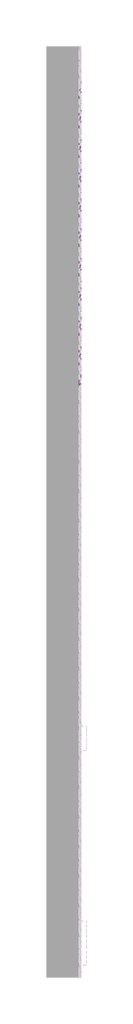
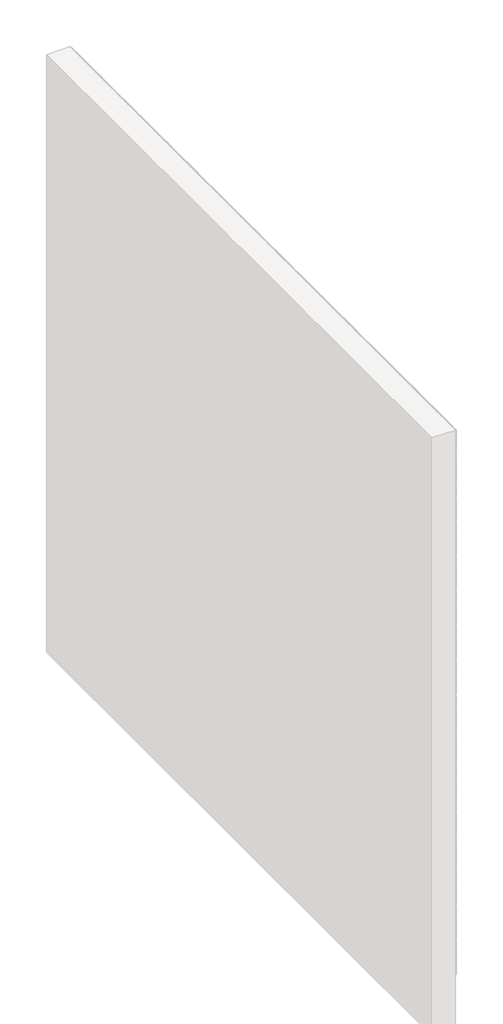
# One storey, part 120 of 121: 144 proxies.
"""IFC4 building model written with IfcOpenShell, lengths in millimetres."""

from ifc_helpers import new_model, si_unit, origin, place, context, project, spatial, transform, mapped, element, save
from components import generic_models_b2b2c5c1, generic_models_9bf73f6f, generic_models_5d175859, generic_models_0bb79e7c

model = new_model("IFC4")

# Units and contexts
model_context = context("Model", 3, world=origin())
ifc_project = project(units=[si_unit("LENGTHUNIT", "METRE", prefix="MILLI")], contexts=[model_context])

# Site, building, storey
site = spatial("IfcSite", under=ifc_project)
building = spatial("IfcBuilding", under=site)
storey = spatial("IfcBuildingStorey", under=building, Name="PORTOBELLO - SHOWROOM", Elevation=0.0)

# Proxies
placement = place(None, origin())
generic_models_shape = generic_models_b2b2c5c1(model_context)
element("IfcBuildingElementProxy", 1, Name="PBSHOP - CUBICA WHITE 4,8X8,3 : CUBICA WHITE - POSIÇÃO 01", ObjectType="PBSHOP - CUBICA WHITE 4,8X8,3 : CUBICA WHITE - POSIÇÃO 01", at=placement, inside=storey, context=model_context, shape_type="MappedRepresentation", body=[
    mapped(generic_models_shape, transform((150369.5341846, 21967.1454575, 2328.5266797), x_axis=(0.0, 1.0, 0.0), y_axis=(0.0, 0.0, 1.0), z_axis=(1.0, 0.0, 0.0))),
])
element("IfcBuildingElementProxy", 2, Name="PBSHOP - CUBICA WHITE 4,8X8,3 : CUBICA WHITE - POSIÇÃO 01", ObjectType="PBSHOP - CUBICA WHITE 4,8X8,3 : CUBICA WHITE - POSIÇÃO 01", at=placement, inside=storey, context=model_context, shape_type="MappedRepresentation", body=[
    mapped(generic_models_shape, transform((150369.5341846, 21013.3331304, 2407.461318), x_axis=(0.0, 1.0, 0.0), y_axis=(0.0, 0.0, 1.0), z_axis=(1.0, 0.0, 0.0))),
])
element("IfcBuildingElementProxy", 3, Name="PBSHOP - CUBICA WHITE 4,8X8,3 : CUBICA WHITE - POSIÇÃO 01", ObjectType="PBSHOP - CUBICA WHITE 4,8X8,3 : CUBICA WHITE - POSIÇÃO 01", at=placement, inside=storey, context=model_context, shape_type="MappedRepresentation", body=[
    mapped(generic_models_shape, transform((150369.5341846, 21104.1723997, 2407.461318), x_axis=(0.0, 1.0, 0.0), y_axis=(0.0, 0.0, 1.0), z_axis=(1.0, 0.0, 0.0))),
])
element("IfcBuildingElementProxy", 4, Name="PBSHOP - CUBICA WHITE 4,8X8,3 : CUBICA WHITE - POSIÇÃO 01", ObjectType="PBSHOP - CUBICA WHITE 4,8X8,3 : CUBICA WHITE - POSIÇÃO 01", at=placement, inside=storey, context=model_context, shape_type="MappedRepresentation", body=[
    mapped(generic_models_shape, transform((150369.5341846, 21195.0116689, 2407.461318), x_axis=(0.0, 1.0, 0.0), y_axis=(0.0, 0.0, 1.0), z_axis=(1.0, 0.0, 0.0))),
])
element("IfcBuildingElementProxy", 5, Name="PBSHOP - CUBICA WHITE 4,8X8,3 : CUBICA WHITE - POSIÇÃO 01", ObjectType="PBSHOP - CUBICA WHITE 4,8X8,3 : CUBICA WHITE - POSIÇÃO 01", at=placement, inside=storey, context=model_context, shape_type="MappedRepresentation", body=[
    mapped(generic_models_shape, transform((150369.5341846, 21285.8509382, 2407.461318), x_axis=(0.0, 1.0, 0.0), y_axis=(0.0, 0.0, 1.0), z_axis=(1.0, 0.0, 0.0))),
])
element("IfcBuildingElementProxy", 6, Name="PBSHOP - CUBICA WHITE 4,8X8,3 : CUBICA WHITE - POSIÇÃO 01", ObjectType="PBSHOP - CUBICA WHITE 4,8X8,3 : CUBICA WHITE - POSIÇÃO 01", at=placement, inside=storey, context=model_context, shape_type="MappedRepresentation", body=[
    mapped(generic_models_shape, transform((150369.5341846, 21376.6902074, 2407.461318), x_axis=(0.0, 1.0, 0.0), y_axis=(0.0, 0.0, 1.0), z_axis=(1.0, 0.0, 0.0))),
])
element("IfcBuildingElementProxy", 7, Name="PBSHOP - CUBICA WHITE 4,8X8,3 : CUBICA WHITE - POSIÇÃO 01", ObjectType="PBSHOP - CUBICA WHITE 4,8X8,3 : CUBICA WHITE - POSIÇÃO 01", at=placement, inside=storey, context=model_context, shape_type="MappedRepresentation", body=[
    mapped(generic_models_shape, transform((150369.5341846, 21467.5294767, 2407.461318), x_axis=(0.0, 1.0, 0.0), y_axis=(0.0, 0.0, 1.0), z_axis=(1.0, 0.0, 0.0))),
])
element("IfcBuildingElementProxy", 8, Name="PBSHOP - CUBICA WHITE 4,8X8,3 : CUBICA WHITE - POSIÇÃO 01", ObjectType="PBSHOP - CUBICA WHITE 4,8X8,3 : CUBICA WHITE - POSIÇÃO 01", at=placement, inside=storey, context=model_context, shape_type="MappedRepresentation", body=[
    mapped(generic_models_shape, transform((150369.5341846, 21558.3687459, 2407.461318), x_axis=(0.0, 1.0, 0.0), y_axis=(0.0, 0.0, 1.0), z_axis=(1.0, 0.0, 0.0))),
])
element("IfcBuildingElementProxy", 9, Name="PBSHOP - CUBICA WHITE 4,8X8,3 : CUBICA WHITE - POSIÇÃO 01", ObjectType="PBSHOP - CUBICA WHITE 4,8X8,3 : CUBICA WHITE - POSIÇÃO 01", at=placement, inside=storey, context=model_context, shape_type="MappedRepresentation", body=[
    mapped(generic_models_shape, transform((150369.5341846, 21649.2080152, 2407.461318), x_axis=(0.0, 1.0, 0.0), y_axis=(0.0, 0.0, 1.0), z_axis=(1.0, 0.0, 0.0))),
])
element("IfcBuildingElementProxy", 10, Name="PBSHOP - CUBICA WHITE 4,8X8,3 : CUBICA WHITE - POSIÇÃO 01", ObjectType="PBSHOP - CUBICA WHITE 4,8X8,3 : CUBICA WHITE - POSIÇÃO 01", at=placement, inside=storey, context=model_context, shape_type="MappedRepresentation", body=[
    mapped(generic_models_shape, transform((150369.5341846, 21740.0472844, 2407.461318), x_axis=(0.0, 1.0, 0.0), y_axis=(0.0, 0.0, 1.0), z_axis=(1.0, 0.0, 0.0))),
])
element("IfcBuildingElementProxy", 11, Name="PBSHOP - CUBICA WHITE 4,8X8,3 : CUBICA WHITE - POSIÇÃO 01", ObjectType="PBSHOP - CUBICA WHITE 4,8X8,3 : CUBICA WHITE - POSIÇÃO 01", at=placement, inside=storey, context=model_context, shape_type="MappedRepresentation", body=[
    mapped(generic_models_shape, transform((150369.5341846, 21830.8865536, 2407.461318), x_axis=(0.0, 1.0, 0.0), y_axis=(0.0, 0.0, 1.0), z_axis=(1.0, 0.0, 0.0))),
])
element("IfcBuildingElementProxy", 12, Name="PBSHOP - CUBICA WHITE 4,8X8,3 : CUBICA WHITE - POSIÇÃO 01", ObjectType="PBSHOP - CUBICA WHITE 4,8X8,3 : CUBICA WHITE - POSIÇÃO 01", at=placement, inside=storey, context=model_context, shape_type="MappedRepresentation", body=[
    mapped(generic_models_shape, transform((150369.5341846, 21921.7258229, 2407.461318), x_axis=(0.0, 1.0, 0.0), y_axis=(0.0, 0.0, 1.0), z_axis=(1.0, 0.0, 0.0))),
])
element("IfcBuildingElementProxy", 13, Name="PBSHOP - CUBICA WHITE 4,8X8,3 : CUBICA WHITE - POSIÇÃO 01", ObjectType="PBSHOP - CUBICA WHITE 4,8X8,3 : CUBICA WHITE - POSIÇÃO 01", at=placement, inside=storey, context=model_context, shape_type="MappedRepresentation", body=[
    mapped(generic_models_shape, transform((150369.5341846, 21058.7527651, 2486.3959564), x_axis=(0.0, 1.0, 0.0), y_axis=(0.0, 0.0, 1.0), z_axis=(1.0, 0.0, 0.0))),
])
element("IfcBuildingElementProxy", 14, Name="PBSHOP - CUBICA WHITE 4,8X8,3 : CUBICA WHITE - POSIÇÃO 01", ObjectType="PBSHOP - CUBICA WHITE 4,8X8,3 : CUBICA WHITE - POSIÇÃO 01", at=placement, inside=storey, context=model_context, shape_type="MappedRepresentation", body=[
    mapped(generic_models_shape, transform((150369.5341846, 21149.5920343, 2486.3959564), x_axis=(0.0, 1.0, 0.0), y_axis=(0.0, 0.0, 1.0), z_axis=(1.0, 0.0, 0.0))),
])
element("IfcBuildingElementProxy", 15, Name="PBSHOP - CUBICA WHITE 4,8X8,3 : CUBICA WHITE - POSIÇÃO 01", ObjectType="PBSHOP - CUBICA WHITE 4,8X8,3 : CUBICA WHITE - POSIÇÃO 01", at=placement, inside=storey, context=model_context, shape_type="MappedRepresentation", body=[
    mapped(generic_models_shape, transform((150369.5341846, 21240.4313036, 2486.3959564), x_axis=(0.0, 1.0, 0.0), y_axis=(0.0, 0.0, 1.0), z_axis=(1.0, 0.0, 0.0))),
])
element("IfcBuildingElementProxy", 16, Name="PBSHOP - CUBICA WHITE 4,8X8,3 : CUBICA WHITE - POSIÇÃO 01", ObjectType="PBSHOP - CUBICA WHITE 4,8X8,3 : CUBICA WHITE - POSIÇÃO 01", at=placement, inside=storey, context=model_context, shape_type="MappedRepresentation", body=[
    mapped(generic_models_shape, transform((150369.5341846, 21331.2705728, 2486.3959564), x_axis=(0.0, 1.0, 0.0), y_axis=(0.0, 0.0, 1.0), z_axis=(1.0, 0.0, 0.0))),
])
element("IfcBuildingElementProxy", 17, Name="PBSHOP - CUBICA WHITE 4,8X8,3 : CUBICA WHITE - POSIÇÃO 01", ObjectType="PBSHOP - CUBICA WHITE 4,8X8,3 : CUBICA WHITE - POSIÇÃO 01", at=placement, inside=storey, context=model_context, shape_type="MappedRepresentation", body=[
    mapped(generic_models_shape, transform((150369.5341846, 21422.109842, 2486.3959564), x_axis=(0.0, 1.0, 0.0), y_axis=(0.0, 0.0, 1.0), z_axis=(1.0, 0.0, 0.0))),
])
element("IfcBuildingElementProxy", 18, Name="PBSHOP - CUBICA WHITE 4,8X8,3 : CUBICA WHITE - POSIÇÃO 01", ObjectType="PBSHOP - CUBICA WHITE 4,8X8,3 : CUBICA WHITE - POSIÇÃO 01", at=placement, inside=storey, context=model_context, shape_type="MappedRepresentation", body=[
    mapped(generic_models_shape, transform((150369.5341846, 21512.9491113, 2486.3959564), x_axis=(0.0, 1.0, 0.0), y_axis=(0.0, 0.0, 1.0), z_axis=(1.0, 0.0, 0.0))),
])
element("IfcBuildingElementProxy", 19, Name="PBSHOP - CUBICA WHITE 4,8X8,3 : CUBICA WHITE - POSIÇÃO 01", ObjectType="PBSHOP - CUBICA WHITE 4,8X8,3 : CUBICA WHITE - POSIÇÃO 01", at=placement, inside=storey, context=model_context, shape_type="MappedRepresentation", body=[
    mapped(generic_models_shape, transform((150369.5341846, 21603.7883805, 2486.3959564), x_axis=(0.0, 1.0, 0.0), y_axis=(0.0, 0.0, 1.0), z_axis=(1.0, 0.0, 0.0))),
])
element("IfcBuildingElementProxy", 20, Name="PBSHOP - CUBICA WHITE 4,8X8,3 : CUBICA WHITE - POSIÇÃO 01", ObjectType="PBSHOP - CUBICA WHITE 4,8X8,3 : CUBICA WHITE - POSIÇÃO 01", at=placement, inside=storey, context=model_context, shape_type="MappedRepresentation", body=[
    mapped(generic_models_shape, transform((150369.5341846, 21694.6276498, 2486.3959564), x_axis=(0.0, 1.0, 0.0), y_axis=(0.0, 0.0, 1.0), z_axis=(1.0, 0.0, 0.0))),
])
element("IfcBuildingElementProxy", 21, Name="PBSHOP - CUBICA WHITE 4,8X8,3 : CUBICA WHITE - POSIÇÃO 01", ObjectType="PBSHOP - CUBICA WHITE 4,8X8,3 : CUBICA WHITE - POSIÇÃO 01", at=placement, inside=storey, context=model_context, shape_type="MappedRepresentation", body=[
    mapped(generic_models_shape, transform((150369.5341846, 21785.466919, 2486.3959564), x_axis=(0.0, 1.0, 0.0), y_axis=(0.0, 0.0, 1.0), z_axis=(1.0, 0.0, 0.0))),
])
element("IfcBuildingElementProxy", 22, Name="PBSHOP - CUBICA WHITE 4,8X8,3 : CUBICA WHITE - POSIÇÃO 01", ObjectType="PBSHOP - CUBICA WHITE 4,8X8,3 : CUBICA WHITE - POSIÇÃO 01", at=placement, inside=storey, context=model_context, shape_type="MappedRepresentation", body=[
    mapped(generic_models_shape, transform((150369.5341846, 21876.3061883, 2486.3959564), x_axis=(0.0, 1.0, 0.0), y_axis=(0.0, 0.0, 1.0), z_axis=(1.0, 0.0, 0.0))),
])
element("IfcBuildingElementProxy", 23, Name="PBSHOP - CUBICA WHITE 4,8X8,3 : CUBICA WHITE - POSIÇÃO 01", ObjectType="PBSHOP - CUBICA WHITE 4,8X8,3 : CUBICA WHITE - POSIÇÃO 01", at=placement, inside=storey, context=model_context, shape_type="MappedRepresentation", body=[
    mapped(generic_models_shape, transform((150369.5341846, 21967.1454575, 2486.3959564), x_axis=(0.0, 1.0, 0.0), y_axis=(0.0, 0.0, 1.0), z_axis=(1.0, 0.0, 0.0))),
])
element("IfcBuildingElementProxy", 24, Name="PBSHOP - CUBICA WHITE 4,8X8,3 : CUBICA WHITE - POSIÇÃO 01", ObjectType="PBSHOP - CUBICA WHITE 4,8X8,3 : CUBICA WHITE - POSIÇÃO 01", at=placement, inside=storey, context=model_context, shape_type="MappedRepresentation", body=[
    mapped(generic_models_shape, transform((150369.5341846, 21013.3331304, 2565.3305948), x_axis=(0.0, 1.0, 0.0), y_axis=(0.0, 0.0, 1.0), z_axis=(1.0, 0.0, 0.0))),
])
element("IfcBuildingElementProxy", 25, Name="PBSHOP - CUBICA WHITE 4,8X8,3 : CUBICA WHITE - POSIÇÃO 01", ObjectType="PBSHOP - CUBICA WHITE 4,8X8,3 : CUBICA WHITE - POSIÇÃO 01", at=placement, inside=storey, context=model_context, shape_type="MappedRepresentation", body=[
    mapped(generic_models_shape, transform((150369.5341846, 21104.1723997, 2565.3305948), x_axis=(0.0, 1.0, 0.0), y_axis=(0.0, 0.0, 1.0), z_axis=(1.0, 0.0, 0.0))),
])
element("IfcBuildingElementProxy", 26, Name="PBSHOP - CUBICA WHITE 4,8X8,3 : CUBICA WHITE - POSIÇÃO 01", ObjectType="PBSHOP - CUBICA WHITE 4,8X8,3 : CUBICA WHITE - POSIÇÃO 01", at=placement, inside=storey, context=model_context, shape_type="MappedRepresentation", body=[
    mapped(generic_models_shape, transform((150369.5341846, 21195.0116689, 2565.3305948), x_axis=(0.0, 1.0, 0.0), y_axis=(0.0, 0.0, 1.0), z_axis=(1.0, 0.0, 0.0))),
])
element("IfcBuildingElementProxy", 27, Name="PBSHOP - CUBICA WHITE 4,8X8,3 : CUBICA WHITE - POSIÇÃO 01", ObjectType="PBSHOP - CUBICA WHITE 4,8X8,3 : CUBICA WHITE - POSIÇÃO 01", at=placement, inside=storey, context=model_context, shape_type="MappedRepresentation", body=[
    mapped(generic_models_shape, transform((150369.5341846, 21285.8509382, 2565.3305948), x_axis=(0.0, 1.0, 0.0), y_axis=(0.0, 0.0, 1.0), z_axis=(1.0, 0.0, 0.0))),
])
element("IfcBuildingElementProxy", 28, Name="PBSHOP - CUBICA WHITE 4,8X8,3 : CUBICA WHITE - POSIÇÃO 01", ObjectType="PBSHOP - CUBICA WHITE 4,8X8,3 : CUBICA WHITE - POSIÇÃO 01", at=placement, inside=storey, context=model_context, shape_type="MappedRepresentation", body=[
    mapped(generic_models_shape, transform((150369.5341846, 21376.6902074, 2565.3305948), x_axis=(0.0, 1.0, 0.0), y_axis=(0.0, 0.0, 1.0), z_axis=(1.0, 0.0, 0.0))),
])
element("IfcBuildingElementProxy", 29, Name="PBSHOP - CUBICA WHITE 4,8X8,3 : CUBICA WHITE - POSIÇÃO 01", ObjectType="PBSHOP - CUBICA WHITE 4,8X8,3 : CUBICA WHITE - POSIÇÃO 01", at=placement, inside=storey, context=model_context, shape_type="MappedRepresentation", body=[
    mapped(generic_models_shape, transform((150369.5341846, 21467.5294767, 2565.3305948), x_axis=(0.0, 1.0, 0.0), y_axis=(0.0, 0.0, 1.0), z_axis=(1.0, 0.0, 0.0))),
])
element("IfcBuildingElementProxy", 30, Name="PBSHOP - CUBICA WHITE 4,8X8,3 : CUBICA WHITE - POSIÇÃO 01", ObjectType="PBSHOP - CUBICA WHITE 4,8X8,3 : CUBICA WHITE - POSIÇÃO 01", at=placement, inside=storey, context=model_context, shape_type="MappedRepresentation", body=[
    mapped(generic_models_shape, transform((150369.5341846, 21558.3687459, 2565.3305948), x_axis=(0.0, 1.0, 0.0), y_axis=(0.0, 0.0, 1.0), z_axis=(1.0, 0.0, 0.0))),
])
element("IfcBuildingElementProxy", 31, Name="PBSHOP - CUBICA WHITE 4,8X8,3 : CUBICA WHITE - POSIÇÃO 01", ObjectType="PBSHOP - CUBICA WHITE 4,8X8,3 : CUBICA WHITE - POSIÇÃO 01", at=placement, inside=storey, context=model_context, shape_type="MappedRepresentation", body=[
    mapped(generic_models_shape, transform((150369.5341846, 21649.2080152, 2565.3305948), x_axis=(0.0, 1.0, 0.0), y_axis=(0.0, 0.0, 1.0), z_axis=(1.0, 0.0, 0.0))),
])
element("IfcBuildingElementProxy", 32, Name="PBSHOP - CUBICA WHITE 4,8X8,3 : CUBICA WHITE - POSIÇÃO 01", ObjectType="PBSHOP - CUBICA WHITE 4,8X8,3 : CUBICA WHITE - POSIÇÃO 01", at=placement, inside=storey, context=model_context, shape_type="MappedRepresentation", body=[
    mapped(generic_models_shape, transform((150369.5341846, 21740.0472844, 2565.3305948), x_axis=(0.0, 1.0, 0.0), y_axis=(0.0, 0.0, 1.0), z_axis=(1.0, 0.0, 0.0))),
])
element("IfcBuildingElementProxy", 33, Name="PBSHOP - CUBICA WHITE 4,8X8,3 : CUBICA WHITE - POSIÇÃO 01", ObjectType="PBSHOP - CUBICA WHITE 4,8X8,3 : CUBICA WHITE - POSIÇÃO 01", at=placement, inside=storey, context=model_context, shape_type="MappedRepresentation", body=[
    mapped(generic_models_shape, transform((150369.5341846, 21830.8865536, 2565.3305948), x_axis=(0.0, 1.0, 0.0), y_axis=(0.0, 0.0, 1.0), z_axis=(1.0, 0.0, 0.0))),
])
element("IfcBuildingElementProxy", 34, Name="PBSHOP - CUBICA WHITE 4,8X8,3 : CUBICA WHITE - POSIÇÃO 01", ObjectType="PBSHOP - CUBICA WHITE 4,8X8,3 : CUBICA WHITE - POSIÇÃO 01", at=placement, inside=storey, context=model_context, shape_type="MappedRepresentation", body=[
    mapped(generic_models_shape, transform((150369.5341846, 21921.7258229, 2565.3305948), x_axis=(0.0, 1.0, 0.0), y_axis=(0.0, 0.0, 1.0), z_axis=(1.0, 0.0, 0.0))),
])
element("IfcBuildingElementProxy", 35, Name="PBSHOP - CUBICA WHITE 4,8X8,3 : CUBICA WHITE - POSIÇÃO 01", ObjectType="PBSHOP - CUBICA WHITE 4,8X8,3 : CUBICA WHITE - POSIÇÃO 01", at=placement, inside=storey, context=model_context, shape_type="MappedRepresentation", body=[
    mapped(generic_models_shape, transform((150369.5341846, 21058.7527651, 2644.2652332), x_axis=(0.0, 1.0, 0.0), y_axis=(0.0, 0.0, 1.0), z_axis=(1.0, 0.0, 0.0))),
])
element("IfcBuildingElementProxy", 36, Name="PBSHOP - CUBICA WHITE 4,8X8,3 : CUBICA WHITE - POSIÇÃO 01", ObjectType="PBSHOP - CUBICA WHITE 4,8X8,3 : CUBICA WHITE - POSIÇÃO 01", at=placement, inside=storey, context=model_context, shape_type="MappedRepresentation", body=[
    mapped(generic_models_shape, transform((150369.5341846, 21149.5920343, 2644.2652332), x_axis=(0.0, 1.0, 0.0), y_axis=(0.0, 0.0, 1.0), z_axis=(1.0, 0.0, 0.0))),
])
element("IfcBuildingElementProxy", 37, Name="PBSHOP - CUBICA WHITE 4,8X8,3 : CUBICA WHITE - POSIÇÃO 01", ObjectType="PBSHOP - CUBICA WHITE 4,8X8,3 : CUBICA WHITE - POSIÇÃO 01", at=placement, inside=storey, context=model_context, shape_type="MappedRepresentation", body=[
    mapped(generic_models_shape, transform((150369.5341846, 21240.4313036, 2644.2652332), x_axis=(0.0, 1.0, 0.0), y_axis=(0.0, 0.0, 1.0), z_axis=(1.0, 0.0, 0.0))),
])
element("IfcBuildingElementProxy", 38, Name="PBSHOP - CUBICA WHITE 4,8X8,3 : CUBICA WHITE - POSIÇÃO 01", ObjectType="PBSHOP - CUBICA WHITE 4,8X8,3 : CUBICA WHITE - POSIÇÃO 01", at=placement, inside=storey, context=model_context, shape_type="MappedRepresentation", body=[
    mapped(generic_models_shape, transform((150369.5341846, 21331.2705728, 2644.2652332), x_axis=(0.0, 1.0, 0.0), y_axis=(0.0, 0.0, 1.0), z_axis=(1.0, 0.0, 0.0))),
])
element("IfcBuildingElementProxy", 39, Name="PBSHOP - CUBICA WHITE 4,8X8,3 : CUBICA WHITE - POSIÇÃO 01", ObjectType="PBSHOP - CUBICA WHITE 4,8X8,3 : CUBICA WHITE - POSIÇÃO 01", at=placement, inside=storey, context=model_context, shape_type="MappedRepresentation", body=[
    mapped(generic_models_shape, transform((150369.5341846, 21422.109842, 2644.2652332), x_axis=(0.0, 1.0, 0.0), y_axis=(0.0, 0.0, 1.0), z_axis=(1.0, 0.0, 0.0))),
])
element("IfcBuildingElementProxy", 40, Name="PBSHOP - CUBICA WHITE 4,8X8,3 : CUBICA WHITE - POSIÇÃO 01", ObjectType="PBSHOP - CUBICA WHITE 4,8X8,3 : CUBICA WHITE - POSIÇÃO 01", at=placement, inside=storey, context=model_context, shape_type="MappedRepresentation", body=[
    mapped(generic_models_shape, transform((150369.5341846, 21512.9491113, 2644.2652332), x_axis=(0.0, 1.0, 0.0), y_axis=(0.0, 0.0, 1.0), z_axis=(1.0, 0.0, 0.0))),
])
element("IfcBuildingElementProxy", 41, Name="PBSHOP - CUBICA WHITE 4,8X8,3 : CUBICA WHITE - POSIÇÃO 01", ObjectType="PBSHOP - CUBICA WHITE 4,8X8,3 : CUBICA WHITE - POSIÇÃO 01", at=placement, inside=storey, context=model_context, shape_type="MappedRepresentation", body=[
    mapped(generic_models_shape, transform((150369.5341846, 21603.7883805, 2644.2652332), x_axis=(0.0, 1.0, 0.0), y_axis=(0.0, 0.0, 1.0), z_axis=(1.0, 0.0, 0.0))),
])
element("IfcBuildingElementProxy", 42, Name="PBSHOP - CUBICA WHITE 4,8X8,3 : CUBICA WHITE - POSIÇÃO 01", ObjectType="PBSHOP - CUBICA WHITE 4,8X8,3 : CUBICA WHITE - POSIÇÃO 01", at=placement, inside=storey, context=model_context, shape_type="MappedRepresentation", body=[
    mapped(generic_models_shape, transform((150369.5341846, 21694.6276498, 2644.2652332), x_axis=(0.0, 1.0, 0.0), y_axis=(0.0, 0.0, 1.0), z_axis=(1.0, 0.0, 0.0))),
])
element("IfcBuildingElementProxy", 43, Name="PBSHOP - CUBICA WHITE 4,8X8,3 : CUBICA WHITE - POSIÇÃO 01", ObjectType="PBSHOP - CUBICA WHITE 4,8X8,3 : CUBICA WHITE - POSIÇÃO 01", at=placement, inside=storey, context=model_context, shape_type="MappedRepresentation", body=[
    mapped(generic_models_shape, transform((150369.5341846, 21785.466919, 2644.2652332), x_axis=(0.0, 1.0, 0.0), y_axis=(0.0, 0.0, 1.0), z_axis=(1.0, 0.0, 0.0))),
])
element("IfcBuildingElementProxy", 44, Name="PBSHOP - CUBICA WHITE 4,8X8,3 : CUBICA WHITE - POSIÇÃO 01", ObjectType="PBSHOP - CUBICA WHITE 4,8X8,3 : CUBICA WHITE - POSIÇÃO 01", at=placement, inside=storey, context=model_context, shape_type="MappedRepresentation", body=[
    mapped(generic_models_shape, transform((150369.5341846, 21876.3061883, 2644.2652332), x_axis=(0.0, 1.0, 0.0), y_axis=(0.0, 0.0, 1.0), z_axis=(1.0, 0.0, 0.0))),
])
element("IfcBuildingElementProxy", 45, Name="PBSHOP - CUBICA WHITE 4,8X8,3 : CUBICA WHITE - POSIÇÃO 01", ObjectType="PBSHOP - CUBICA WHITE 4,8X8,3 : CUBICA WHITE - POSIÇÃO 01", at=placement, inside=storey, context=model_context, shape_type="MappedRepresentation", body=[
    mapped(generic_models_shape, transform((150369.5341846, 21967.1454575, 2644.2652332), x_axis=(0.0, 1.0, 0.0), y_axis=(0.0, 0.0, 1.0), z_axis=(1.0, 0.0, 0.0))),
])
generic_models_2_shape = generic_models_9bf73f6f(model_context)
element("IfcBuildingElementProxy", 46, Name="PBSHOP - CUBICA WHITE 4,8X8,3 : CUBICA WHITE - POSIÇÃO 03", ObjectType="PBSHOP - CUBICA WHITE 4,8X8,3 : CUBICA WHITE - POSIÇÃO 03", at=placement, inside=storey, context=model_context, shape_type="MappedRepresentation", body=[
    mapped(generic_models_2_shape, transform((150369.5341846, 21036.0451069, 2289.0181501), x_axis=(0.0, 1.0, 0.0), y_axis=(0.0, 0.0, 1.0), z_axis=(1.0, 0.0, 0.0))),
])
element("IfcBuildingElementProxy", 47, Name="PBSHOP - CUBICA WHITE 4,8X8,3 : CUBICA WHITE - POSIÇÃO 03", ObjectType="PBSHOP - CUBICA WHITE 4,8X8,3 : CUBICA WHITE - POSIÇÃO 03", at=placement, inside=storey, context=model_context, shape_type="MappedRepresentation", body=[
    mapped(generic_models_2_shape, transform((150369.5341846, 21126.8843762, 2289.0181501), x_axis=(0.0, 1.0, 0.0), y_axis=(0.0, 0.0, 1.0), z_axis=(1.0, 0.0, 0.0))),
])
element("IfcBuildingElementProxy", 48, Name="PBSHOP - CUBICA WHITE 4,8X8,3 : CUBICA WHITE - POSIÇÃO 03", ObjectType="PBSHOP - CUBICA WHITE 4,8X8,3 : CUBICA WHITE - POSIÇÃO 03", at=placement, inside=storey, context=model_context, shape_type="MappedRepresentation", body=[
    mapped(generic_models_2_shape, transform((150369.5341846, 21217.7236454, 2289.0181501), x_axis=(0.0, 1.0, 0.0), y_axis=(0.0, 0.0, 1.0), z_axis=(1.0, 0.0, 0.0))),
])
element("IfcBuildingElementProxy", 49, Name="PBSHOP - CUBICA WHITE 4,8X8,3 : CUBICA WHITE - POSIÇÃO 03", ObjectType="PBSHOP - CUBICA WHITE 4,8X8,3 : CUBICA WHITE - POSIÇÃO 03", at=placement, inside=storey, context=model_context, shape_type="MappedRepresentation", body=[
    mapped(generic_models_2_shape, transform((150369.5341846, 21308.5629147, 2289.0181501), x_axis=(0.0, 1.0, 0.0), y_axis=(0.0, 0.0, 1.0), z_axis=(1.0, 0.0, 0.0))),
])
element("IfcBuildingElementProxy", 50, Name="PBSHOP - CUBICA WHITE 4,8X8,3 : CUBICA WHITE - POSIÇÃO 03", ObjectType="PBSHOP - CUBICA WHITE 4,8X8,3 : CUBICA WHITE - POSIÇÃO 03", at=placement, inside=storey, context=model_context, shape_type="MappedRepresentation", body=[
    mapped(generic_models_2_shape, transform((150369.5341846, 21399.4021839, 2289.0181501), x_axis=(0.0, 1.0, 0.0), y_axis=(0.0, 0.0, 1.0), z_axis=(1.0, 0.0, 0.0))),
])
element("IfcBuildingElementProxy", 51, Name="PBSHOP - CUBICA WHITE 4,8X8,3 : CUBICA WHITE - POSIÇÃO 03", ObjectType="PBSHOP - CUBICA WHITE 4,8X8,3 : CUBICA WHITE - POSIÇÃO 03", at=placement, inside=storey, context=model_context, shape_type="MappedRepresentation", body=[
    mapped(generic_models_2_shape, transform((150369.5341846, 21490.2414531, 2289.0181501), x_axis=(0.0, 1.0, 0.0), y_axis=(0.0, 0.0, 1.0), z_axis=(1.0, 0.0, 0.0))),
])
element("IfcBuildingElementProxy", 52, Name="PBSHOP - CUBICA WHITE 4,8X8,3 : CUBICA WHITE - POSIÇÃO 03", ObjectType="PBSHOP - CUBICA WHITE 4,8X8,3 : CUBICA WHITE - POSIÇÃO 03", at=placement, inside=storey, context=model_context, shape_type="MappedRepresentation", body=[
    mapped(generic_models_2_shape, transform((150369.5341846, 21581.0807224, 2289.0181501), x_axis=(0.0, 1.0, 0.0), y_axis=(0.0, 0.0, 1.0), z_axis=(1.0, 0.0, 0.0))),
])
element("IfcBuildingElementProxy", 53, Name="PBSHOP - CUBICA WHITE 4,8X8,3 : CUBICA WHITE - POSIÇÃO 03", ObjectType="PBSHOP - CUBICA WHITE 4,8X8,3 : CUBICA WHITE - POSIÇÃO 03", at=placement, inside=storey, context=model_context, shape_type="MappedRepresentation", body=[
    mapped(generic_models_2_shape, transform((150369.5341846, 21671.9199916, 2289.0181501), x_axis=(0.0, 1.0, 0.0), y_axis=(0.0, 0.0, 1.0), z_axis=(1.0, 0.0, 0.0))),
])
element("IfcBuildingElementProxy", 54, Name="PBSHOP - CUBICA WHITE 4,8X8,3 : CUBICA WHITE - POSIÇÃO 03", ObjectType="PBSHOP - CUBICA WHITE 4,8X8,3 : CUBICA WHITE - POSIÇÃO 03", at=placement, inside=storey, context=model_context, shape_type="MappedRepresentation", body=[
    mapped(generic_models_2_shape, transform((150369.5341846, 21762.7592609, 2289.0181501), x_axis=(0.0, 1.0, 0.0), y_axis=(0.0, 0.0, 1.0), z_axis=(1.0, 0.0, 0.0))),
])
element("IfcBuildingElementProxy", 55, Name="PBSHOP - CUBICA WHITE 4,8X8,3 : CUBICA WHITE - POSIÇÃO 03", ObjectType="PBSHOP - CUBICA WHITE 4,8X8,3 : CUBICA WHITE - POSIÇÃO 03", at=placement, inside=storey, context=model_context, shape_type="MappedRepresentation", body=[
    mapped(generic_models_2_shape, transform((150369.5341846, 21853.5985301, 2289.0181501), x_axis=(0.0, 1.0, 0.0), y_axis=(0.0, 0.0, 1.0), z_axis=(1.0, 0.0, 0.0))),
])
element("IfcBuildingElementProxy", 56, Name="PBSHOP - CUBICA WHITE 4,8X8,3 : CUBICA WHITE - POSIÇÃO 03", ObjectType="PBSHOP - CUBICA WHITE 4,8X8,3 : CUBICA WHITE - POSIÇÃO 03", at=placement, inside=storey, context=model_context, shape_type="MappedRepresentation", body=[
    mapped(generic_models_2_shape, transform((150369.5341846, 21944.4377994, 2289.0181501), x_axis=(0.0, 1.0, 0.0), y_axis=(0.0, 0.0, 1.0), z_axis=(1.0, 0.0, 0.0))),
])
element("IfcBuildingElementProxy", 57, Name="PBSHOP - CUBICA WHITE 4,8X8,3 : CUBICA WHITE - POSIÇÃO 03", ObjectType="PBSHOP - CUBICA WHITE 4,8X8,3 : CUBICA WHITE - POSIÇÃO 03", at=placement, inside=storey, context=model_context, shape_type="MappedRepresentation", body=[
    mapped(generic_models_2_shape, transform((150369.5341846, 21081.4647415, 2367.9527884), x_axis=(0.0, 1.0, 0.0), y_axis=(0.0, 0.0, 1.0), z_axis=(1.0, 0.0, 0.0))),
])
element("IfcBuildingElementProxy", 58, Name="PBSHOP - CUBICA WHITE 4,8X8,3 : CUBICA WHITE - POSIÇÃO 03", ObjectType="PBSHOP - CUBICA WHITE 4,8X8,3 : CUBICA WHITE - POSIÇÃO 03", at=placement, inside=storey, context=model_context, shape_type="MappedRepresentation", body=[
    mapped(generic_models_2_shape, transform((150369.5341846, 21172.3040108, 2367.9527884), x_axis=(0.0, 1.0, 0.0), y_axis=(0.0, 0.0, 1.0), z_axis=(1.0, 0.0, 0.0))),
])
element("IfcBuildingElementProxy", 59, Name="PBSHOP - CUBICA WHITE 4,8X8,3 : CUBICA WHITE - POSIÇÃO 03", ObjectType="PBSHOP - CUBICA WHITE 4,8X8,3 : CUBICA WHITE - POSIÇÃO 03", at=placement, inside=storey, context=model_context, shape_type="MappedRepresentation", body=[
    mapped(generic_models_2_shape, transform((150369.5341846, 21263.14328, 2367.9527884), x_axis=(0.0, 1.0, 0.0), y_axis=(0.0, 0.0, 1.0), z_axis=(1.0, 0.0, 0.0))),
])
element("IfcBuildingElementProxy", 60, Name="PBSHOP - CUBICA WHITE 4,8X8,3 : CUBICA WHITE - POSIÇÃO 03", ObjectType="PBSHOP - CUBICA WHITE 4,8X8,3 : CUBICA WHITE - POSIÇÃO 03", at=placement, inside=storey, context=model_context, shape_type="MappedRepresentation", body=[
    mapped(generic_models_2_shape, transform((150369.5341846, 21353.9825493, 2367.9527884), x_axis=(0.0, 1.0, 0.0), y_axis=(0.0, 0.0, 1.0), z_axis=(1.0, 0.0, 0.0))),
])
element("IfcBuildingElementProxy", 61, Name="PBSHOP - CUBICA WHITE 4,8X8,3 : CUBICA WHITE - POSIÇÃO 03", ObjectType="PBSHOP - CUBICA WHITE 4,8X8,3 : CUBICA WHITE - POSIÇÃO 03", at=placement, inside=storey, context=model_context, shape_type="MappedRepresentation", body=[
    mapped(generic_models_2_shape, transform((150369.5341846, 21444.8218185, 2367.9527884), x_axis=(0.0, 1.0, 0.0), y_axis=(0.0, 0.0, 1.0), z_axis=(1.0, 0.0, 0.0))),
])
element("IfcBuildingElementProxy", 62, Name="PBSHOP - CUBICA WHITE 4,8X8,3 : CUBICA WHITE - POSIÇÃO 03", ObjectType="PBSHOP - CUBICA WHITE 4,8X8,3 : CUBICA WHITE - POSIÇÃO 03", at=placement, inside=storey, context=model_context, shape_type="MappedRepresentation", body=[
    mapped(generic_models_2_shape, transform((150369.5341846, 21535.6610878, 2367.9527884), x_axis=(0.0, 1.0, 0.0), y_axis=(0.0, 0.0, 1.0), z_axis=(1.0, 0.0, 0.0))),
])
element("IfcBuildingElementProxy", 63, Name="PBSHOP - CUBICA WHITE 4,8X8,3 : CUBICA WHITE - POSIÇÃO 03", ObjectType="PBSHOP - CUBICA WHITE 4,8X8,3 : CUBICA WHITE - POSIÇÃO 03", at=placement, inside=storey, context=model_context, shape_type="MappedRepresentation", body=[
    mapped(generic_models_2_shape, transform((150369.5341846, 21626.500357, 2367.9527884), x_axis=(0.0, 1.0, 0.0), y_axis=(0.0, 0.0, 1.0), z_axis=(1.0, 0.0, 0.0))),
])
element("IfcBuildingElementProxy", 64, Name="PBSHOP - CUBICA WHITE 4,8X8,3 : CUBICA WHITE - POSIÇÃO 03", ObjectType="PBSHOP - CUBICA WHITE 4,8X8,3 : CUBICA WHITE - POSIÇÃO 03", at=placement, inside=storey, context=model_context, shape_type="MappedRepresentation", body=[
    mapped(generic_models_2_shape, transform((150369.5341846, 21717.3396263, 2367.9527884), x_axis=(0.0, 1.0, 0.0), y_axis=(0.0, 0.0, 1.0), z_axis=(1.0, 0.0, 0.0))),
])
element("IfcBuildingElementProxy", 65, Name="PBSHOP - CUBICA WHITE 4,8X8,3 : CUBICA WHITE - POSIÇÃO 03", ObjectType="PBSHOP - CUBICA WHITE 4,8X8,3 : CUBICA WHITE - POSIÇÃO 03", at=placement, inside=storey, context=model_context, shape_type="MappedRepresentation", body=[
    mapped(generic_models_2_shape, transform((150369.5341846, 21808.1788955, 2367.9527884), x_axis=(0.0, 1.0, 0.0), y_axis=(0.0, 0.0, 1.0), z_axis=(1.0, 0.0, 0.0))),
])
element("IfcBuildingElementProxy", 66, Name="PBSHOP - CUBICA WHITE 4,8X8,3 : CUBICA WHITE - POSIÇÃO 03", ObjectType="PBSHOP - CUBICA WHITE 4,8X8,3 : CUBICA WHITE - POSIÇÃO 03", at=placement, inside=storey, context=model_context, shape_type="MappedRepresentation", body=[
    mapped(generic_models_2_shape, transform((150369.5341846, 21899.0181647, 2367.9527884), x_axis=(0.0, 1.0, 0.0), y_axis=(0.0, 0.0, 1.0), z_axis=(1.0, 0.0, 0.0))),
])
element("IfcBuildingElementProxy", 67, Name="PBSHOP - CUBICA WHITE 4,8X8,3 : CUBICA WHITE - POSIÇÃO 03", ObjectType="PBSHOP - CUBICA WHITE 4,8X8,3 : CUBICA WHITE - POSIÇÃO 03", at=placement, inside=storey, context=model_context, shape_type="MappedRepresentation", body=[
    mapped(generic_models_2_shape, transform((150369.5341846, 21036.0451069, 2446.8874268), x_axis=(0.0, 1.0, 0.0), y_axis=(0.0, 0.0, 1.0), z_axis=(1.0, 0.0, 0.0))),
])
element("IfcBuildingElementProxy", 68, Name="PBSHOP - CUBICA WHITE 4,8X8,3 : CUBICA WHITE - POSIÇÃO 03", ObjectType="PBSHOP - CUBICA WHITE 4,8X8,3 : CUBICA WHITE - POSIÇÃO 03", at=placement, inside=storey, context=model_context, shape_type="MappedRepresentation", body=[
    mapped(generic_models_2_shape, transform((150369.5341846, 21126.8843762, 2446.8874268), x_axis=(0.0, 1.0, 0.0), y_axis=(0.0, 0.0, 1.0), z_axis=(1.0, 0.0, 0.0))),
])
element("IfcBuildingElementProxy", 69, Name="PBSHOP - CUBICA WHITE 4,8X8,3 : CUBICA WHITE - POSIÇÃO 03", ObjectType="PBSHOP - CUBICA WHITE 4,8X8,3 : CUBICA WHITE - POSIÇÃO 03", at=placement, inside=storey, context=model_context, shape_type="MappedRepresentation", body=[
    mapped(generic_models_2_shape, transform((150369.5341846, 21217.7236454, 2446.8874268), x_axis=(0.0, 1.0, 0.0), y_axis=(0.0, 0.0, 1.0), z_axis=(1.0, 0.0, 0.0))),
])
element("IfcBuildingElementProxy", 70, Name="PBSHOP - CUBICA WHITE 4,8X8,3 : CUBICA WHITE - POSIÇÃO 03", ObjectType="PBSHOP - CUBICA WHITE 4,8X8,3 : CUBICA WHITE - POSIÇÃO 03", at=placement, inside=storey, context=model_context, shape_type="MappedRepresentation", body=[
    mapped(generic_models_2_shape, transform((150369.5341846, 21308.5629147, 2446.8874268), x_axis=(0.0, 1.0, 0.0), y_axis=(0.0, 0.0, 1.0), z_axis=(1.0, 0.0, 0.0))),
])
element("IfcBuildingElementProxy", 71, Name="PBSHOP - CUBICA WHITE 4,8X8,3 : CUBICA WHITE - POSIÇÃO 03", ObjectType="PBSHOP - CUBICA WHITE 4,8X8,3 : CUBICA WHITE - POSIÇÃO 03", at=placement, inside=storey, context=model_context, shape_type="MappedRepresentation", body=[
    mapped(generic_models_2_shape, transform((150369.5341846, 21399.4021839, 2446.8874268), x_axis=(0.0, 1.0, 0.0), y_axis=(0.0, 0.0, 1.0), z_axis=(1.0, 0.0, 0.0))),
])
element("IfcBuildingElementProxy", 72, Name="PBSHOP - CUBICA WHITE 4,8X8,3 : CUBICA WHITE - POSIÇÃO 03", ObjectType="PBSHOP - CUBICA WHITE 4,8X8,3 : CUBICA WHITE - POSIÇÃO 03", at=placement, inside=storey, context=model_context, shape_type="MappedRepresentation", body=[
    mapped(generic_models_2_shape, transform((150369.5341846, 21490.2414531, 2446.8874268), x_axis=(0.0, 1.0, 0.0), y_axis=(0.0, 0.0, 1.0), z_axis=(1.0, 0.0, 0.0))),
])
element("IfcBuildingElementProxy", 73, Name="PBSHOP - CUBICA WHITE 4,8X8,3 : CUBICA WHITE - POSIÇÃO 03", ObjectType="PBSHOP - CUBICA WHITE 4,8X8,3 : CUBICA WHITE - POSIÇÃO 03", at=placement, inside=storey, context=model_context, shape_type="MappedRepresentation", body=[
    mapped(generic_models_2_shape, transform((150369.5341846, 21581.0807224, 2446.8874268), x_axis=(0.0, 1.0, 0.0), y_axis=(0.0, 0.0, 1.0), z_axis=(1.0, 0.0, 0.0))),
])
element("IfcBuildingElementProxy", 74, Name="PBSHOP - CUBICA WHITE 4,8X8,3 : CUBICA WHITE - POSIÇÃO 03", ObjectType="PBSHOP - CUBICA WHITE 4,8X8,3 : CUBICA WHITE - POSIÇÃO 03", at=placement, inside=storey, context=model_context, shape_type="MappedRepresentation", body=[
    mapped(generic_models_2_shape, transform((150369.5341846, 21671.9199916, 2446.8874268), x_axis=(0.0, 1.0, 0.0), y_axis=(0.0, 0.0, 1.0), z_axis=(1.0, 0.0, 0.0))),
])
element("IfcBuildingElementProxy", 75, Name="PBSHOP - CUBICA WHITE 4,8X8,3 : CUBICA WHITE - POSIÇÃO 03", ObjectType="PBSHOP - CUBICA WHITE 4,8X8,3 : CUBICA WHITE - POSIÇÃO 03", at=placement, inside=storey, context=model_context, shape_type="MappedRepresentation", body=[
    mapped(generic_models_2_shape, transform((150369.5341846, 21762.7592609, 2446.8874268), x_axis=(0.0, 1.0, 0.0), y_axis=(0.0, 0.0, 1.0), z_axis=(1.0, 0.0, 0.0))),
])
element("IfcBuildingElementProxy", 76, Name="PBSHOP - CUBICA WHITE 4,8X8,3 : CUBICA WHITE - POSIÇÃO 03", ObjectType="PBSHOP - CUBICA WHITE 4,8X8,3 : CUBICA WHITE - POSIÇÃO 03", at=placement, inside=storey, context=model_context, shape_type="MappedRepresentation", body=[
    mapped(generic_models_2_shape, transform((150369.5341846, 21853.5985301, 2446.8874268), x_axis=(0.0, 1.0, 0.0), y_axis=(0.0, 0.0, 1.0), z_axis=(1.0, 0.0, 0.0))),
])
element("IfcBuildingElementProxy", 77, Name="PBSHOP - CUBICA WHITE 4,8X8,3 : CUBICA WHITE - POSIÇÃO 03", ObjectType="PBSHOP - CUBICA WHITE 4,8X8,3 : CUBICA WHITE - POSIÇÃO 03", at=placement, inside=storey, context=model_context, shape_type="MappedRepresentation", body=[
    mapped(generic_models_2_shape, transform((150369.5341846, 21944.4377994, 2446.8874268), x_axis=(0.0, 1.0, 0.0), y_axis=(0.0, 0.0, 1.0), z_axis=(1.0, 0.0, 0.0))),
])
element("IfcBuildingElementProxy", 78, Name="PBSHOP - CUBICA WHITE 4,8X8,3 : CUBICA WHITE - POSIÇÃO 03", ObjectType="PBSHOP - CUBICA WHITE 4,8X8,3 : CUBICA WHITE - POSIÇÃO 03", at=placement, inside=storey, context=model_context, shape_type="MappedRepresentation", body=[
    mapped(generic_models_2_shape, transform((150369.5341846, 21081.4647415, 2525.8220652), x_axis=(0.0, 1.0, 0.0), y_axis=(0.0, 0.0, 1.0), z_axis=(1.0, 0.0, 0.0))),
])
element("IfcBuildingElementProxy", 79, Name="PBSHOP - CUBICA WHITE 4,8X8,3 : CUBICA WHITE - POSIÇÃO 03", ObjectType="PBSHOP - CUBICA WHITE 4,8X8,3 : CUBICA WHITE - POSIÇÃO 03", at=placement, inside=storey, context=model_context, shape_type="MappedRepresentation", body=[
    mapped(generic_models_2_shape, transform((150369.5341846, 21172.3040108, 2525.8220652), x_axis=(0.0, 1.0, 0.0), y_axis=(0.0, 0.0, 1.0), z_axis=(1.0, 0.0, 0.0))),
])
element("IfcBuildingElementProxy", 80, Name="PBSHOP - CUBICA WHITE 4,8X8,3 : CUBICA WHITE - POSIÇÃO 03", ObjectType="PBSHOP - CUBICA WHITE 4,8X8,3 : CUBICA WHITE - POSIÇÃO 03", at=placement, inside=storey, context=model_context, shape_type="MappedRepresentation", body=[
    mapped(generic_models_2_shape, transform((150369.5341846, 21263.14328, 2525.8220652), x_axis=(0.0, 1.0, 0.0), y_axis=(0.0, 0.0, 1.0), z_axis=(1.0, 0.0, 0.0))),
])
element("IfcBuildingElementProxy", 81, Name="PBSHOP - CUBICA WHITE 4,8X8,3 : CUBICA WHITE - POSIÇÃO 03", ObjectType="PBSHOP - CUBICA WHITE 4,8X8,3 : CUBICA WHITE - POSIÇÃO 03", at=placement, inside=storey, context=model_context, shape_type="MappedRepresentation", body=[
    mapped(generic_models_2_shape, transform((150369.5341846, 21353.9825493, 2525.8220652), x_axis=(0.0, 1.0, 0.0), y_axis=(0.0, 0.0, 1.0), z_axis=(1.0, 0.0, 0.0))),
])
element("IfcBuildingElementProxy", 82, Name="PBSHOP - CUBICA WHITE 4,8X8,3 : CUBICA WHITE - POSIÇÃO 03", ObjectType="PBSHOP - CUBICA WHITE 4,8X8,3 : CUBICA WHITE - POSIÇÃO 03", at=placement, inside=storey, context=model_context, shape_type="MappedRepresentation", body=[
    mapped(generic_models_2_shape, transform((150369.5341846, 21444.8218185, 2525.8220652), x_axis=(0.0, 1.0, 0.0), y_axis=(0.0, 0.0, 1.0), z_axis=(1.0, 0.0, 0.0))),
])
element("IfcBuildingElementProxy", 83, Name="PBSHOP - CUBICA WHITE 4,8X8,3 : CUBICA WHITE - POSIÇÃO 03", ObjectType="PBSHOP - CUBICA WHITE 4,8X8,3 : CUBICA WHITE - POSIÇÃO 03", at=placement, inside=storey, context=model_context, shape_type="MappedRepresentation", body=[
    mapped(generic_models_2_shape, transform((150369.5341846, 21535.6610878, 2525.8220652), x_axis=(0.0, 1.0, 0.0), y_axis=(0.0, 0.0, 1.0), z_axis=(1.0, 0.0, 0.0))),
])
element("IfcBuildingElementProxy", 84, Name="PBSHOP - CUBICA WHITE 4,8X8,3 : CUBICA WHITE - POSIÇÃO 03", ObjectType="PBSHOP - CUBICA WHITE 4,8X8,3 : CUBICA WHITE - POSIÇÃO 03", at=placement, inside=storey, context=model_context, shape_type="MappedRepresentation", body=[
    mapped(generic_models_2_shape, transform((150369.5341846, 21626.500357, 2525.8220652), x_axis=(0.0, 1.0, 0.0), y_axis=(0.0, 0.0, 1.0), z_axis=(1.0, 0.0, 0.0))),
])
element("IfcBuildingElementProxy", 85, Name="PBSHOP - CUBICA WHITE 4,8X8,3 : CUBICA WHITE - POSIÇÃO 03", ObjectType="PBSHOP - CUBICA WHITE 4,8X8,3 : CUBICA WHITE - POSIÇÃO 03", at=placement, inside=storey, context=model_context, shape_type="MappedRepresentation", body=[
    mapped(generic_models_2_shape, transform((150369.5341846, 21717.3396263, 2525.8220652), x_axis=(0.0, 1.0, 0.0), y_axis=(0.0, 0.0, 1.0), z_axis=(1.0, 0.0, 0.0))),
])
element("IfcBuildingElementProxy", 86, Name="PBSHOP - CUBICA WHITE 4,8X8,3 : CUBICA WHITE - POSIÇÃO 03", ObjectType="PBSHOP - CUBICA WHITE 4,8X8,3 : CUBICA WHITE - POSIÇÃO 03", at=placement, inside=storey, context=model_context, shape_type="MappedRepresentation", body=[
    mapped(generic_models_2_shape, transform((150369.5341846, 21808.1788955, 2525.8220652), x_axis=(0.0, 1.0, 0.0), y_axis=(0.0, 0.0, 1.0), z_axis=(1.0, 0.0, 0.0))),
])
element("IfcBuildingElementProxy", 87, Name="PBSHOP - CUBICA WHITE 4,8X8,3 : CUBICA WHITE - POSIÇÃO 03", ObjectType="PBSHOP - CUBICA WHITE 4,8X8,3 : CUBICA WHITE - POSIÇÃO 03", at=placement, inside=storey, context=model_context, shape_type="MappedRepresentation", body=[
    mapped(generic_models_2_shape, transform((150369.5341846, 21899.0181647, 2525.8220652), x_axis=(0.0, 1.0, 0.0), y_axis=(0.0, 0.0, 1.0), z_axis=(1.0, 0.0, 0.0))),
])
element("IfcBuildingElementProxy", 88, Name="PBSHOP - CUBICA WHITE 4,8X8,3 : CUBICA WHITE - POSIÇÃO 03", ObjectType="PBSHOP - CUBICA WHITE 4,8X8,3 : CUBICA WHITE - POSIÇÃO 03", at=placement, inside=storey, context=model_context, shape_type="MappedRepresentation", body=[
    mapped(generic_models_2_shape, transform((150369.5341846, 21036.0451069, 2604.7567035), x_axis=(0.0, 1.0, 0.0), y_axis=(0.0, 0.0, 1.0), z_axis=(1.0, 0.0, 0.0))),
])
element("IfcBuildingElementProxy", 89, Name="PBSHOP - CUBICA WHITE 4,8X8,3 : CUBICA WHITE - POSIÇÃO 03", ObjectType="PBSHOP - CUBICA WHITE 4,8X8,3 : CUBICA WHITE - POSIÇÃO 03", at=placement, inside=storey, context=model_context, shape_type="MappedRepresentation", body=[
    mapped(generic_models_2_shape, transform((150369.5341846, 21126.8843762, 2604.7567035), x_axis=(0.0, 1.0, 0.0), y_axis=(0.0, 0.0, 1.0), z_axis=(1.0, 0.0, 0.0))),
])
element("IfcBuildingElementProxy", 90, Name="PBSHOP - CUBICA WHITE 4,8X8,3 : CUBICA WHITE - POSIÇÃO 03", ObjectType="PBSHOP - CUBICA WHITE 4,8X8,3 : CUBICA WHITE - POSIÇÃO 03", at=placement, inside=storey, context=model_context, shape_type="MappedRepresentation", body=[
    mapped(generic_models_2_shape, transform((150369.5341846, 21217.7236454, 2604.7567035), x_axis=(0.0, 1.0, 0.0), y_axis=(0.0, 0.0, 1.0), z_axis=(1.0, 0.0, 0.0))),
])
element("IfcBuildingElementProxy", 91, Name="PBSHOP - CUBICA WHITE 4,8X8,3 : CUBICA WHITE - POSIÇÃO 03", ObjectType="PBSHOP - CUBICA WHITE 4,8X8,3 : CUBICA WHITE - POSIÇÃO 03", at=placement, inside=storey, context=model_context, shape_type="MappedRepresentation", body=[
    mapped(generic_models_2_shape, transform((150369.5341846, 21308.5629147, 2604.7567035), x_axis=(0.0, 1.0, 0.0), y_axis=(0.0, 0.0, 1.0), z_axis=(1.0, 0.0, 0.0))),
])
element("IfcBuildingElementProxy", 92, Name="PBSHOP - CUBICA WHITE 4,8X8,3 : CUBICA WHITE - POSIÇÃO 03", ObjectType="PBSHOP - CUBICA WHITE 4,8X8,3 : CUBICA WHITE - POSIÇÃO 03", at=placement, inside=storey, context=model_context, shape_type="MappedRepresentation", body=[
    mapped(generic_models_2_shape, transform((150369.5341846, 21399.4021839, 2604.7567035), x_axis=(0.0, 1.0, 0.0), y_axis=(0.0, 0.0, 1.0), z_axis=(1.0, 0.0, 0.0))),
])
element("IfcBuildingElementProxy", 93, Name="PBSHOP - CUBICA WHITE 4,8X8,3 : CUBICA WHITE - POSIÇÃO 03", ObjectType="PBSHOP - CUBICA WHITE 4,8X8,3 : CUBICA WHITE - POSIÇÃO 03", at=placement, inside=storey, context=model_context, shape_type="MappedRepresentation", body=[
    mapped(generic_models_2_shape, transform((150369.5341846, 21490.2414531, 2604.7567035), x_axis=(0.0, 1.0, 0.0), y_axis=(0.0, 0.0, 1.0), z_axis=(1.0, 0.0, 0.0))),
])
element("IfcBuildingElementProxy", 94, Name="PBSHOP - CUBICA WHITE 4,8X8,3 : CUBICA WHITE - POSIÇÃO 03", ObjectType="PBSHOP - CUBICA WHITE 4,8X8,3 : CUBICA WHITE - POSIÇÃO 03", at=placement, inside=storey, context=model_context, shape_type="MappedRepresentation", body=[
    mapped(generic_models_2_shape, transform((150369.5341846, 21581.0807224, 2604.7567035), x_axis=(0.0, 1.0, 0.0), y_axis=(0.0, 0.0, 1.0), z_axis=(1.0, 0.0, 0.0))),
])
element("IfcBuildingElementProxy", 95, Name="PBSHOP - CUBICA WHITE 4,8X8,3 : CUBICA WHITE - POSIÇÃO 03", ObjectType="PBSHOP - CUBICA WHITE 4,8X8,3 : CUBICA WHITE - POSIÇÃO 03", at=placement, inside=storey, context=model_context, shape_type="MappedRepresentation", body=[
    mapped(generic_models_2_shape, transform((150369.5341846, 21671.9199916, 2604.7567035), x_axis=(0.0, 1.0, 0.0), y_axis=(0.0, 0.0, 1.0), z_axis=(1.0, 0.0, 0.0))),
])
element("IfcBuildingElementProxy", 96, Name="PBSHOP - CUBICA WHITE 4,8X8,3 : CUBICA WHITE - POSIÇÃO 03", ObjectType="PBSHOP - CUBICA WHITE 4,8X8,3 : CUBICA WHITE - POSIÇÃO 03", at=placement, inside=storey, context=model_context, shape_type="MappedRepresentation", body=[
    mapped(generic_models_2_shape, transform((150369.5341846, 21762.7592609, 2604.7567035), x_axis=(0.0, 1.0, 0.0), y_axis=(0.0, 0.0, 1.0), z_axis=(1.0, 0.0, 0.0))),
])
element("IfcBuildingElementProxy", 97, Name="PBSHOP - CUBICA WHITE 4,8X8,3 : CUBICA WHITE - POSIÇÃO 03", ObjectType="PBSHOP - CUBICA WHITE 4,8X8,3 : CUBICA WHITE - POSIÇÃO 03", at=placement, inside=storey, context=model_context, shape_type="MappedRepresentation", body=[
    mapped(generic_models_2_shape, transform((150369.5341846, 21853.5985301, 2604.7567035), x_axis=(0.0, 1.0, 0.0), y_axis=(0.0, 0.0, 1.0), z_axis=(1.0, 0.0, 0.0))),
])
generic_models_3_shape = generic_models_5d175859(model_context)
element("IfcBuildingElementProxy", 98, Name="PBSHOP - CUBICA WHITE 4,8X8,3 : CUBICA WHITE - POSIÇÃO 01", ObjectType="PBSHOP - CUBICA WHITE 4,8X8,3 : CUBICA WHITE - POSIÇÃO 01", at=placement, inside=storey, context=model_context, shape_type="MappedRepresentation", body=[
    mapped(generic_models_3_shape, transform((150369.5341846, 21921.7301412, 2328.5266797), x_axis=(0.0, -1.0, 0.0), y_axis=(0.0, 0.0, -1.0), z_axis=(1.0, 0.0, 0.0))),
])
element("IfcBuildingElementProxy", 99, Name="PBSHOP - CUBICA WHITE 4,8X8,3 : CUBICA WHITE - POSIÇÃO 01", ObjectType="PBSHOP - CUBICA WHITE 4,8X8,3 : CUBICA WHITE - POSIÇÃO 01", at=placement, inside=storey, context=model_context, shape_type="MappedRepresentation", body=[
    mapped(generic_models_3_shape, transform((150369.5341846, 21058.7570834, 2407.461318), x_axis=(0.0, -1.0, 0.0), y_axis=(0.0, 0.0, -1.0), z_axis=(1.0, 0.0, 0.0))),
])
element("IfcBuildingElementProxy", 100, Name="PBSHOP - CUBICA WHITE 4,8X8,3 : CUBICA WHITE - POSIÇÃO 01", ObjectType="PBSHOP - CUBICA WHITE 4,8X8,3 : CUBICA WHITE - POSIÇÃO 01", at=placement, inside=storey, context=model_context, shape_type="MappedRepresentation", body=[
    mapped(generic_models_3_shape, transform((150369.5341846, 21149.5963526, 2407.461318), x_axis=(0.0, -1.0, 0.0), y_axis=(0.0, 0.0, -1.0), z_axis=(1.0, 0.0, 0.0))),
])
element("IfcBuildingElementProxy", 101, Name="PBSHOP - CUBICA WHITE 4,8X8,3 : CUBICA WHITE - POSIÇÃO 01", ObjectType="PBSHOP - CUBICA WHITE 4,8X8,3 : CUBICA WHITE - POSIÇÃO 01", at=placement, inside=storey, context=model_context, shape_type="MappedRepresentation", body=[
    mapped(generic_models_3_shape, transform((150369.5341846, 21240.4356219, 2407.461318), x_axis=(0.0, -1.0, 0.0), y_axis=(0.0, 0.0, -1.0), z_axis=(1.0, 0.0, 0.0))),
])
element("IfcBuildingElementProxy", 102, Name="PBSHOP - CUBICA WHITE 4,8X8,3 : CUBICA WHITE - POSIÇÃO 01", ObjectType="PBSHOP - CUBICA WHITE 4,8X8,3 : CUBICA WHITE - POSIÇÃO 01", at=placement, inside=storey, context=model_context, shape_type="MappedRepresentation", body=[
    mapped(generic_models_3_shape, transform((150369.5341846, 21331.2748911, 2407.461318), x_axis=(0.0, -1.0, 0.0), y_axis=(0.0, 0.0, -1.0), z_axis=(1.0, 0.0, 0.0))),
])
element("IfcBuildingElementProxy", 103, Name="PBSHOP - CUBICA WHITE 4,8X8,3 : CUBICA WHITE - POSIÇÃO 01", ObjectType="PBSHOP - CUBICA WHITE 4,8X8,3 : CUBICA WHITE - POSIÇÃO 01", at=placement, inside=storey, context=model_context, shape_type="MappedRepresentation", body=[
    mapped(generic_models_3_shape, transform((150369.5341846, 21422.1141604, 2407.461318), x_axis=(0.0, -1.0, 0.0), y_axis=(0.0, 0.0, -1.0), z_axis=(1.0, 0.0, 0.0))),
])
element("IfcBuildingElementProxy", 104, Name="PBSHOP - CUBICA WHITE 4,8X8,3 : CUBICA WHITE - POSIÇÃO 01", ObjectType="PBSHOP - CUBICA WHITE 4,8X8,3 : CUBICA WHITE - POSIÇÃO 01", at=placement, inside=storey, context=model_context, shape_type="MappedRepresentation", body=[
    mapped(generic_models_3_shape, transform((150369.5341846, 21512.9534296, 2407.461318), x_axis=(0.0, -1.0, 0.0), y_axis=(0.0, 0.0, -1.0), z_axis=(1.0, 0.0, 0.0))),
])
element("IfcBuildingElementProxy", 105, Name="PBSHOP - CUBICA WHITE 4,8X8,3 : CUBICA WHITE - POSIÇÃO 01", ObjectType="PBSHOP - CUBICA WHITE 4,8X8,3 : CUBICA WHITE - POSIÇÃO 01", at=placement, inside=storey, context=model_context, shape_type="MappedRepresentation", body=[
    mapped(generic_models_3_shape, transform((150369.5341846, 21603.7926989, 2407.461318), x_axis=(0.0, -1.0, 0.0), y_axis=(0.0, 0.0, -1.0), z_axis=(1.0, 0.0, 0.0))),
])
element("IfcBuildingElementProxy", 106, Name="PBSHOP - CUBICA WHITE 4,8X8,3 : CUBICA WHITE - POSIÇÃO 01", ObjectType="PBSHOP - CUBICA WHITE 4,8X8,3 : CUBICA WHITE - POSIÇÃO 01", at=placement, inside=storey, context=model_context, shape_type="MappedRepresentation", body=[
    mapped(generic_models_3_shape, transform((150369.5341846, 21694.6319681, 2407.461318), x_axis=(0.0, -1.0, 0.0), y_axis=(0.0, 0.0, -1.0), z_axis=(1.0, 0.0, 0.0))),
])
element("IfcBuildingElementProxy", 107, Name="PBSHOP - CUBICA WHITE 4,8X8,3 : CUBICA WHITE - POSIÇÃO 01", ObjectType="PBSHOP - CUBICA WHITE 4,8X8,3 : CUBICA WHITE - POSIÇÃO 01", at=placement, inside=storey, context=model_context, shape_type="MappedRepresentation", body=[
    mapped(generic_models_3_shape, transform((150369.5341846, 21785.4712374, 2407.461318), x_axis=(0.0, -1.0, 0.0), y_axis=(0.0, 0.0, -1.0), z_axis=(1.0, 0.0, 0.0))),
])
element("IfcBuildingElementProxy", 108, Name="PBSHOP - CUBICA WHITE 4,8X8,3 : CUBICA WHITE - POSIÇÃO 01", ObjectType="PBSHOP - CUBICA WHITE 4,8X8,3 : CUBICA WHITE - POSIÇÃO 01", at=placement, inside=storey, context=model_context, shape_type="MappedRepresentation", body=[
    mapped(generic_models_3_shape, transform((150369.5341846, 21876.3105066, 2407.461318), x_axis=(0.0, -1.0, 0.0), y_axis=(0.0, 0.0, -1.0), z_axis=(1.0, 0.0, 0.0))),
])
element("IfcBuildingElementProxy", 109, Name="PBSHOP - CUBICA WHITE 4,8X8,3 : CUBICA WHITE - POSIÇÃO 01", ObjectType="PBSHOP - CUBICA WHITE 4,8X8,3 : CUBICA WHITE - POSIÇÃO 01", at=placement, inside=storey, context=model_context, shape_type="MappedRepresentation", body=[
    mapped(generic_models_3_shape, transform((150369.5341846, 21967.1497758, 2407.461318), x_axis=(0.0, -1.0, 0.0), y_axis=(0.0, 0.0, -1.0), z_axis=(1.0, 0.0, 0.0))),
])
element("IfcBuildingElementProxy", 110, Name="PBSHOP - CUBICA WHITE 4,8X8,3 : CUBICA WHITE - POSIÇÃO 01", ObjectType="PBSHOP - CUBICA WHITE 4,8X8,3 : CUBICA WHITE - POSIÇÃO 01", at=placement, inside=storey, context=model_context, shape_type="MappedRepresentation", body=[
    mapped(generic_models_3_shape, transform((150369.5341846, 21013.3374488, 2486.3959564), x_axis=(0.0, -1.0, 0.0), y_axis=(0.0, 0.0, -1.0), z_axis=(1.0, 0.0, 0.0))),
])
element("IfcBuildingElementProxy", 111, Name="PBSHOP - CUBICA WHITE 4,8X8,3 : CUBICA WHITE - POSIÇÃO 01", ObjectType="PBSHOP - CUBICA WHITE 4,8X8,3 : CUBICA WHITE - POSIÇÃO 01", at=placement, inside=storey, context=model_context, shape_type="MappedRepresentation", body=[
    mapped(generic_models_3_shape, transform((150369.5341846, 21104.176718, 2486.3959564), x_axis=(0.0, -1.0, 0.0), y_axis=(0.0, 0.0, -1.0), z_axis=(1.0, 0.0, 0.0))),
])
element("IfcBuildingElementProxy", 112, Name="PBSHOP - CUBICA WHITE 4,8X8,3 : CUBICA WHITE - POSIÇÃO 01", ObjectType="PBSHOP - CUBICA WHITE 4,8X8,3 : CUBICA WHITE - POSIÇÃO 01", at=placement, inside=storey, context=model_context, shape_type="MappedRepresentation", body=[
    mapped(generic_models_3_shape, transform((150369.5341846, 21195.0159873, 2486.3959564), x_axis=(0.0, -1.0, 0.0), y_axis=(0.0, 0.0, -1.0), z_axis=(1.0, 0.0, 0.0))),
])
element("IfcBuildingElementProxy", 113, Name="PBSHOP - CUBICA WHITE 4,8X8,3 : CUBICA WHITE - POSIÇÃO 01", ObjectType="PBSHOP - CUBICA WHITE 4,8X8,3 : CUBICA WHITE - POSIÇÃO 01", at=placement, inside=storey, context=model_context, shape_type="MappedRepresentation", body=[
    mapped(generic_models_3_shape, transform((150369.5341846, 21285.8552565, 2486.3959564), x_axis=(0.0, -1.0, 0.0), y_axis=(0.0, 0.0, -1.0), z_axis=(1.0, 0.0, 0.0))),
])
element("IfcBuildingElementProxy", 114, Name="PBSHOP - CUBICA WHITE 4,8X8,3 : CUBICA WHITE - POSIÇÃO 01", ObjectType="PBSHOP - CUBICA WHITE 4,8X8,3 : CUBICA WHITE - POSIÇÃO 01", at=placement, inside=storey, context=model_context, shape_type="MappedRepresentation", body=[
    mapped(generic_models_3_shape, transform((150369.5341846, 21376.6945258, 2486.3959564), x_axis=(0.0, -1.0, 0.0), y_axis=(0.0, 0.0, -1.0), z_axis=(1.0, 0.0, 0.0))),
])
element("IfcBuildingElementProxy", 115, Name="PBSHOP - CUBICA WHITE 4,8X8,3 : CUBICA WHITE - POSIÇÃO 01", ObjectType="PBSHOP - CUBICA WHITE 4,8X8,3 : CUBICA WHITE - POSIÇÃO 01", at=placement, inside=storey, context=model_context, shape_type="MappedRepresentation", body=[
    mapped(generic_models_3_shape, transform((150369.5341846, 21467.533795, 2486.3959564), x_axis=(0.0, -1.0, 0.0), y_axis=(0.0, 0.0, -1.0), z_axis=(1.0, 0.0, 0.0))),
])
element("IfcBuildingElementProxy", 116, Name="PBSHOP - CUBICA WHITE 4,8X8,3 : CUBICA WHITE - POSIÇÃO 01", ObjectType="PBSHOP - CUBICA WHITE 4,8X8,3 : CUBICA WHITE - POSIÇÃO 01", at=placement, inside=storey, context=model_context, shape_type="MappedRepresentation", body=[
    mapped(generic_models_3_shape, transform((150369.5341846, 21558.3730642, 2486.3959564), x_axis=(0.0, -1.0, 0.0), y_axis=(0.0, 0.0, -1.0), z_axis=(1.0, 0.0, 0.0))),
])
element("IfcBuildingElementProxy", 117, Name="PBSHOP - CUBICA WHITE 4,8X8,3 : CUBICA WHITE - POSIÇÃO 01", ObjectType="PBSHOP - CUBICA WHITE 4,8X8,3 : CUBICA WHITE - POSIÇÃO 01", at=placement, inside=storey, context=model_context, shape_type="MappedRepresentation", body=[
    mapped(generic_models_3_shape, transform((150369.5341846, 21649.2123335, 2486.3959564), x_axis=(0.0, -1.0, 0.0), y_axis=(0.0, 0.0, -1.0), z_axis=(1.0, 0.0, 0.0))),
])
element("IfcBuildingElementProxy", 118, Name="PBSHOP - CUBICA WHITE 4,8X8,3 : CUBICA WHITE - POSIÇÃO 01", ObjectType="PBSHOP - CUBICA WHITE 4,8X8,3 : CUBICA WHITE - POSIÇÃO 01", at=placement, inside=storey, context=model_context, shape_type="MappedRepresentation", body=[
    mapped(generic_models_3_shape, transform((150369.5341846, 21740.0516027, 2486.3959564), x_axis=(0.0, -1.0, 0.0), y_axis=(0.0, 0.0, -1.0), z_axis=(1.0, 0.0, 0.0))),
])
element("IfcBuildingElementProxy", 119, Name="PBSHOP - CUBICA WHITE 4,8X8,3 : CUBICA WHITE - POSIÇÃO 01", ObjectType="PBSHOP - CUBICA WHITE 4,8X8,3 : CUBICA WHITE - POSIÇÃO 01", at=placement, inside=storey, context=model_context, shape_type="MappedRepresentation", body=[
    mapped(generic_models_3_shape, transform((150369.5341846, 21830.890872, 2486.3959564), x_axis=(0.0, -1.0, 0.0), y_axis=(0.0, 0.0, -1.0), z_axis=(1.0, 0.0, 0.0))),
])
element("IfcBuildingElementProxy", 120, Name="PBSHOP - CUBICA WHITE 4,8X8,3 : CUBICA WHITE - POSIÇÃO 01", ObjectType="PBSHOP - CUBICA WHITE 4,8X8,3 : CUBICA WHITE - POSIÇÃO 01", at=placement, inside=storey, context=model_context, shape_type="MappedRepresentation", body=[
    mapped(generic_models_3_shape, transform((150369.5341846, 21921.7301412, 2486.3959564), x_axis=(0.0, -1.0, 0.0), y_axis=(0.0, 0.0, -1.0), z_axis=(1.0, 0.0, 0.0))),
])
element("IfcBuildingElementProxy", 121, Name="PBSHOP - CUBICA WHITE 4,8X8,3 : CUBICA WHITE - POSIÇÃO 01", ObjectType="PBSHOP - CUBICA WHITE 4,8X8,3 : CUBICA WHITE - POSIÇÃO 01", at=placement, inside=storey, context=model_context, shape_type="MappedRepresentation", body=[
    mapped(generic_models_3_shape, transform((150369.5341846, 21058.7570834, 2565.3305948), x_axis=(0.0, -1.0, 0.0), y_axis=(0.0, 0.0, -1.0), z_axis=(1.0, 0.0, 0.0))),
])
element("IfcBuildingElementProxy", 122, Name="PBSHOP - CUBICA WHITE 4,8X8,3 : CUBICA WHITE - POSIÇÃO 01", ObjectType="PBSHOP - CUBICA WHITE 4,8X8,3 : CUBICA WHITE - POSIÇÃO 01", at=placement, inside=storey, context=model_context, shape_type="MappedRepresentation", body=[
    mapped(generic_models_3_shape, transform((150369.5341846, 21149.5963526, 2565.3305948), x_axis=(0.0, -1.0, 0.0), y_axis=(0.0, 0.0, -1.0), z_axis=(1.0, 0.0, 0.0))),
])
element("IfcBuildingElementProxy", 123, Name="PBSHOP - CUBICA WHITE 4,8X8,3 : CUBICA WHITE - POSIÇÃO 01", ObjectType="PBSHOP - CUBICA WHITE 4,8X8,3 : CUBICA WHITE - POSIÇÃO 01", at=placement, inside=storey, context=model_context, shape_type="MappedRepresentation", body=[
    mapped(generic_models_3_shape, transform((150369.5341846, 21240.4356219, 2565.3305948), x_axis=(0.0, -1.0, 0.0), y_axis=(0.0, 0.0, -1.0), z_axis=(1.0, 0.0, 0.0))),
])
element("IfcBuildingElementProxy", 124, Name="PBSHOP - CUBICA WHITE 4,8X8,3 : CUBICA WHITE - POSIÇÃO 01", ObjectType="PBSHOP - CUBICA WHITE 4,8X8,3 : CUBICA WHITE - POSIÇÃO 01", at=placement, inside=storey, context=model_context, shape_type="MappedRepresentation", body=[
    mapped(generic_models_3_shape, transform((150369.5341846, 21331.2748911, 2565.3305948), x_axis=(0.0, -1.0, 0.0), y_axis=(0.0, 0.0, -1.0), z_axis=(1.0, 0.0, 0.0))),
])
element("IfcBuildingElementProxy", 125, Name="PBSHOP - CUBICA WHITE 4,8X8,3 : CUBICA WHITE - POSIÇÃO 01", ObjectType="PBSHOP - CUBICA WHITE 4,8X8,3 : CUBICA WHITE - POSIÇÃO 01", at=placement, inside=storey, context=model_context, shape_type="MappedRepresentation", body=[
    mapped(generic_models_3_shape, transform((150369.5341846, 21422.1141604, 2565.3305948), x_axis=(0.0, -1.0, 0.0), y_axis=(0.0, 0.0, -1.0), z_axis=(1.0, 0.0, 0.0))),
])
element("IfcBuildingElementProxy", 126, Name="PBSHOP - CUBICA WHITE 4,8X8,3 : CUBICA WHITE - POSIÇÃO 01", ObjectType="PBSHOP - CUBICA WHITE 4,8X8,3 : CUBICA WHITE - POSIÇÃO 01", at=placement, inside=storey, context=model_context, shape_type="MappedRepresentation", body=[
    mapped(generic_models_3_shape, transform((150369.5341846, 21512.9534296, 2565.3305948), x_axis=(0.0, -1.0, 0.0), y_axis=(0.0, 0.0, -1.0), z_axis=(1.0, 0.0, 0.0))),
])
element("IfcBuildingElementProxy", 127, Name="PBSHOP - CUBICA WHITE 4,8X8,3 : CUBICA WHITE - POSIÇÃO 01", ObjectType="PBSHOP - CUBICA WHITE 4,8X8,3 : CUBICA WHITE - POSIÇÃO 01", at=placement, inside=storey, context=model_context, shape_type="MappedRepresentation", body=[
    mapped(generic_models_3_shape, transform((150369.5341846, 21603.7926989, 2565.3305948), x_axis=(0.0, -1.0, 0.0), y_axis=(0.0, 0.0, -1.0), z_axis=(1.0, 0.0, 0.0))),
])
element("IfcBuildingElementProxy", 128, Name="PBSHOP - CUBICA WHITE 4,8X8,3 : CUBICA WHITE - POSIÇÃO 01", ObjectType="PBSHOP - CUBICA WHITE 4,8X8,3 : CUBICA WHITE - POSIÇÃO 01", at=placement, inside=storey, context=model_context, shape_type="MappedRepresentation", body=[
    mapped(generic_models_3_shape, transform((150369.5341846, 21694.6319681, 2565.3305948), x_axis=(0.0, -1.0, 0.0), y_axis=(0.0, 0.0, -1.0), z_axis=(1.0, 0.0, 0.0))),
])
element("IfcBuildingElementProxy", 129, Name="PBSHOP - CUBICA WHITE 4,8X8,3 : CUBICA WHITE - POSIÇÃO 01", ObjectType="PBSHOP - CUBICA WHITE 4,8X8,3 : CUBICA WHITE - POSIÇÃO 01", at=placement, inside=storey, context=model_context, shape_type="MappedRepresentation", body=[
    mapped(generic_models_3_shape, transform((150369.5341846, 21785.4712374, 2565.3305948), x_axis=(0.0, -1.0, 0.0), y_axis=(0.0, 0.0, -1.0), z_axis=(1.0, 0.0, 0.0))),
])
element("IfcBuildingElementProxy", 130, Name="PBSHOP - CUBICA WHITE 4,8X8,3 : CUBICA WHITE - POSIÇÃO 01", ObjectType="PBSHOP - CUBICA WHITE 4,8X8,3 : CUBICA WHITE - POSIÇÃO 01", at=placement, inside=storey, context=model_context, shape_type="MappedRepresentation", body=[
    mapped(generic_models_3_shape, transform((150369.5341846, 21876.3105066, 2565.3305948), x_axis=(0.0, -1.0, 0.0), y_axis=(0.0, 0.0, -1.0), z_axis=(1.0, 0.0, 0.0))),
])
element("IfcBuildingElementProxy", 131, Name="PBSHOP - CUBICA WHITE 4,8X8,3 : CUBICA WHITE - POSIÇÃO 01", ObjectType="PBSHOP - CUBICA WHITE 4,8X8,3 : CUBICA WHITE - POSIÇÃO 01", at=placement, inside=storey, context=model_context, shape_type="MappedRepresentation", body=[
    mapped(generic_models_3_shape, transform((150369.5341846, 21967.1497758, 2565.3305948), x_axis=(0.0, -1.0, 0.0), y_axis=(0.0, 0.0, -1.0), z_axis=(1.0, 0.0, 0.0))),
])
element("IfcBuildingElementProxy", 132, Name="PBSHOP - CUBICA WHITE 4,8X8,3 : CUBICA WHITE - POSIÇÃO 01", ObjectType="PBSHOP - CUBICA WHITE 4,8X8,3 : CUBICA WHITE - POSIÇÃO 01", at=placement, inside=storey, context=model_context, shape_type="MappedRepresentation", body=[
    mapped(generic_models_3_shape, transform((150369.5341846, 21013.3374488, 2644.2652332), x_axis=(0.0, -1.0, 0.0), y_axis=(0.0, 0.0, -1.0), z_axis=(1.0, 0.0, 0.0))),
])
element("IfcBuildingElementProxy", 133, Name="PBSHOP - CUBICA WHITE 4,8X8,3 : CUBICA WHITE - POSIÇÃO 01", ObjectType="PBSHOP - CUBICA WHITE 4,8X8,3 : CUBICA WHITE - POSIÇÃO 01", at=placement, inside=storey, context=model_context, shape_type="MappedRepresentation", body=[
    mapped(generic_models_3_shape, transform((150369.5341846, 21104.176718, 2644.2652332), x_axis=(0.0, -1.0, 0.0), y_axis=(0.0, 0.0, -1.0), z_axis=(1.0, 0.0, 0.0))),
])
element("IfcBuildingElementProxy", 134, Name="PBSHOP - CUBICA WHITE 4,8X8,3 : CUBICA WHITE - POSIÇÃO 01", ObjectType="PBSHOP - CUBICA WHITE 4,8X8,3 : CUBICA WHITE - POSIÇÃO 01", at=placement, inside=storey, context=model_context, shape_type="MappedRepresentation", body=[
    mapped(generic_models_3_shape, transform((150369.5341846, 21195.0159873, 2644.2652332), x_axis=(0.0, -1.0, 0.0), y_axis=(0.0, 0.0, -1.0), z_axis=(1.0, 0.0, 0.0))),
])
element("IfcBuildingElementProxy", 135, Name="PBSHOP - CUBICA WHITE 4,8X8,3 : CUBICA WHITE - POSIÇÃO 01", ObjectType="PBSHOP - CUBICA WHITE 4,8X8,3 : CUBICA WHITE - POSIÇÃO 01", at=placement, inside=storey, context=model_context, shape_type="MappedRepresentation", body=[
    mapped(generic_models_3_shape, transform((150369.5341846, 21285.8552565, 2644.2652332), x_axis=(0.0, -1.0, 0.0), y_axis=(0.0, 0.0, -1.0), z_axis=(1.0, 0.0, 0.0))),
])
element("IfcBuildingElementProxy", 136, Name="PBSHOP - CUBICA WHITE 4,8X8,3 : CUBICA WHITE - POSIÇÃO 01", ObjectType="PBSHOP - CUBICA WHITE 4,8X8,3 : CUBICA WHITE - POSIÇÃO 01", at=placement, inside=storey, context=model_context, shape_type="MappedRepresentation", body=[
    mapped(generic_models_3_shape, transform((150369.5341846, 21376.6945258, 2644.2652332), x_axis=(0.0, -1.0, 0.0), y_axis=(0.0, 0.0, -1.0), z_axis=(1.0, 0.0, 0.0))),
])
element("IfcBuildingElementProxy", 137, Name="PBSHOP - CUBICA WHITE 4,8X8,3 : CUBICA WHITE - POSIÇÃO 01", ObjectType="PBSHOP - CUBICA WHITE 4,8X8,3 : CUBICA WHITE - POSIÇÃO 01", at=placement, inside=storey, context=model_context, shape_type="MappedRepresentation", body=[
    mapped(generic_models_3_shape, transform((150369.5341846, 21467.533795, 2644.2652332), x_axis=(0.0, -1.0, 0.0), y_axis=(0.0, 0.0, -1.0), z_axis=(1.0, 0.0, 0.0))),
])
element("IfcBuildingElementProxy", 138, Name="PBSHOP - CUBICA WHITE 4,8X8,3 : CUBICA WHITE - POSIÇÃO 01", ObjectType="PBSHOP - CUBICA WHITE 4,8X8,3 : CUBICA WHITE - POSIÇÃO 01", at=placement, inside=storey, context=model_context, shape_type="MappedRepresentation", body=[
    mapped(generic_models_3_shape, transform((150369.5341846, 21558.3730642, 2644.2652332), x_axis=(0.0, -1.0, 0.0), y_axis=(0.0, 0.0, -1.0), z_axis=(1.0, 0.0, 0.0))),
])
element("IfcBuildingElementProxy", 139, Name="PBSHOP - CUBICA WHITE 4,8X8,3 : CUBICA WHITE - POSIÇÃO 01", ObjectType="PBSHOP - CUBICA WHITE 4,8X8,3 : CUBICA WHITE - POSIÇÃO 01", at=placement, inside=storey, context=model_context, shape_type="MappedRepresentation", body=[
    mapped(generic_models_3_shape, transform((150369.5341846, 21649.2123335, 2644.2652332), x_axis=(0.0, -1.0, 0.0), y_axis=(0.0, 0.0, -1.0), z_axis=(1.0, 0.0, 0.0))),
])
element("IfcBuildingElementProxy", 140, Name="PBSHOP - CUBICA WHITE 4,8X8,3 : CUBICA WHITE - POSIÇÃO 01", ObjectType="PBSHOP - CUBICA WHITE 4,8X8,3 : CUBICA WHITE - POSIÇÃO 01", at=placement, inside=storey, context=model_context, shape_type="MappedRepresentation", body=[
    mapped(generic_models_3_shape, transform((150369.5341846, 21740.0516027, 2644.2652332), x_axis=(0.0, -1.0, 0.0), y_axis=(0.0, 0.0, -1.0), z_axis=(1.0, 0.0, 0.0))),
])
element("IfcBuildingElementProxy", 141, Name="PBSHOP - CUBICA WHITE 4,8X8,3 : CUBICA WHITE - POSIÇÃO 01", ObjectType="PBSHOP - CUBICA WHITE 4,8X8,3 : CUBICA WHITE - POSIÇÃO 01", at=placement, inside=storey, context=model_context, shape_type="MappedRepresentation", body=[
    mapped(generic_models_3_shape, transform((150369.5341846, 21830.890872, 2644.2652332), x_axis=(0.0, -1.0, 0.0), y_axis=(0.0, 0.0, -1.0), z_axis=(1.0, 0.0, 0.0))),
])
element("IfcBuildingElementProxy", 142, Name="PBSHOP - CUBICA WHITE 4,8X8,3 : CUBICA WHITE - POSIÇÃO 01", ObjectType="PBSHOP - CUBICA WHITE 4,8X8,3 : CUBICA WHITE - POSIÇÃO 01", at=placement, inside=storey, context=model_context, shape_type="MappedRepresentation", body=[
    mapped(generic_models_3_shape, transform((150369.5341846, 21921.7301412, 2644.2652332), x_axis=(0.0, -1.0, 0.0), y_axis=(0.0, 0.0, -1.0), z_axis=(1.0, 0.0, 0.0))),
])
generic_models_4_shape = generic_models_0bb79e7c(model_context)
element("IfcBuildingElementProxy", 143, Name="PBSHOP - CUBICA WHITE 4,8X8,3 : CUBICA WHITE - POSIÇÃO 03", ObjectType="PBSHOP - CUBICA WHITE 4,8X8,3 : CUBICA WHITE - POSIÇÃO 03", at=placement, inside=storey, context=model_context, shape_type="MappedRepresentation", body=[
    mapped(generic_models_4_shape, transform((150369.5341846, 21989.857434, 2367.9527884), x_axis=(0.0, 1.0, 0.0), y_axis=(0.0, 0.0, 1.0), z_axis=(1.0, 0.0, 0.0))),
])
element("IfcBuildingElementProxy", 144, Name="PBSHOP - CUBICA WHITE 4,8X8,3 : CUBICA WHITE - POSIÇÃO 03", ObjectType="PBSHOP - CUBICA WHITE 4,8X8,3 : CUBICA WHITE - POSIÇÃO 03", at=placement, inside=storey, context=model_context, shape_type="MappedRepresentation", body=[
    mapped(generic_models_4_shape, transform((150369.5341846, 21989.857434, 2525.8220652), x_axis=(0.0, 1.0, 0.0), y_axis=(0.0, 0.0, 1.0), z_axis=(1.0, 0.0, 0.0))),
])

save(model, "model.ifc")
